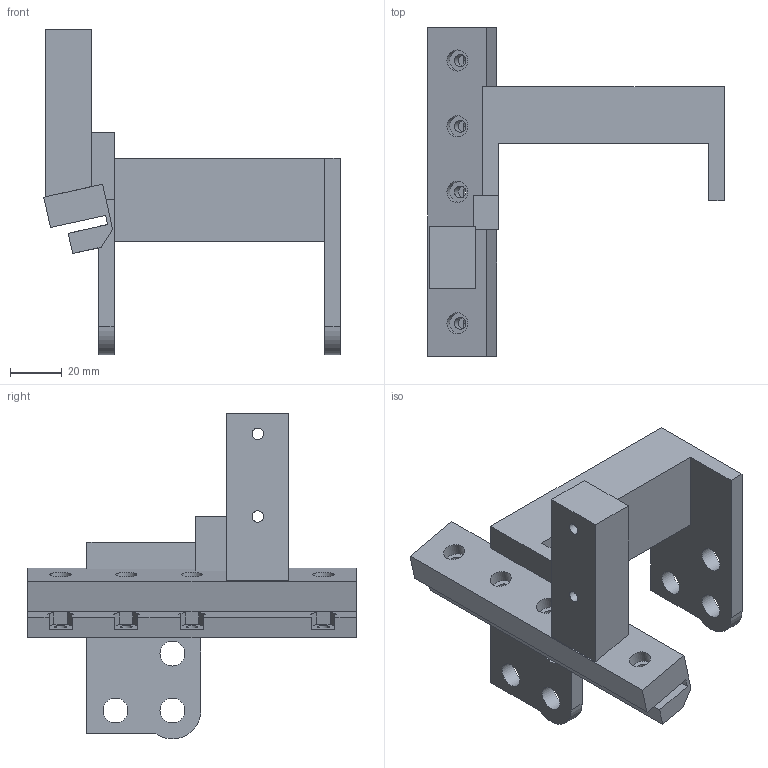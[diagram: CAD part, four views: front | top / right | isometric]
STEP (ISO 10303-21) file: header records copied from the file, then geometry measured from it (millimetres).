
FILE_DESCRIPTION(('Open CASCADE Model'),'2;1');
FILE_NAME('Open CASCADE Shape Model','2026-10-17T23:02:58',('Author'),( 'Open CASCADE'),'Open CASCADE STEP processor 7.9','Open CASCADE 7.9' ,'Unknown');
FILE_SCHEMA(('AUTOMOTIVE_DESIGN { 1 0 10303 214 1 1 1 1 }'));
Length unit declared in the file: millimetre
Products named in the file (1): Open CASCADE STEP translator 7.9 1
Bounding box: 114.6 x 127 x 125.98 mm (x, y, z)
Volume: 167206.9 mm3; surface area: 44976.1 mm2
Topology: 1 solids, 1 shells, 102 faces, 282 edges, 188 vertices
Faces by surface type: plane 78, cylinder 24
Full cylindrical faces by diameter (mm): 4.4 x2, 4.6 x8, 7.8 x2, 8.2 x4, 9.6 x6
Entity records: 6911 total; most frequent: CARTESIAN_POINT 1506, DIRECTION 901, LINE 585, VECTOR 585, ORIENTED_EDGE 564, PCURVE 564, DEFINITIONAL_REPRESENTATION 564, EDGE_CURVE 282
